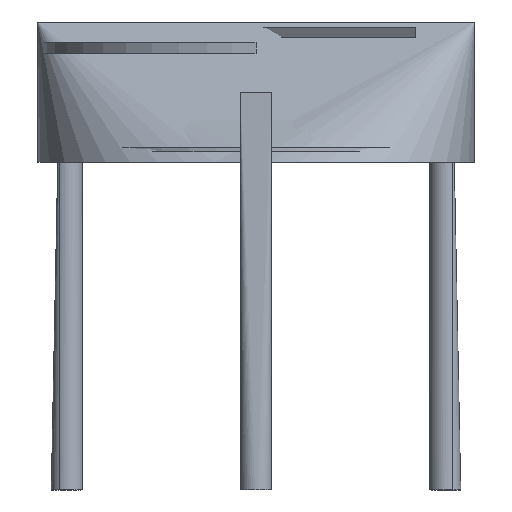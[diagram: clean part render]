
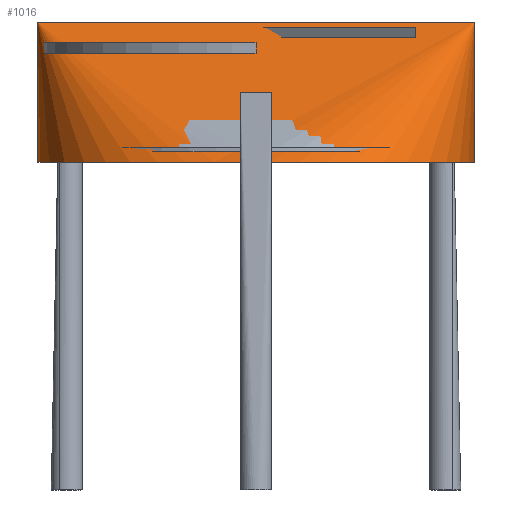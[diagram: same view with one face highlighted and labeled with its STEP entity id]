
A CAD part, front view. The second image highlights one B-rep face of the part: STEP entity #1016.
In plain terms, the highlighted free-form (B-spline) face has degree [2, 1] with [5, 2] control points.
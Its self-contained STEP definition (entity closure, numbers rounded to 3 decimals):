
#35=(
BOUNDED_CURVE()
B_SPLINE_CURVE(1,(#4257,#4258),.UNSPECIFIED.,.F.,.F.)
B_SPLINE_CURVE_WITH_KNOTS((2,2),(0.,135.),.UNSPECIFIED.)
CURVE()
GEOMETRIC_REPRESENTATION_ITEM()
RATIONAL_B_SPLINE_CURVE((1.,1.))
REPRESENTATION_ITEM('')
);
#46=(
BOUNDED_CURVE()
B_SPLINE_CURVE(1,(#4300,#4301),.UNSPECIFIED.,.F.,.F.)
B_SPLINE_CURVE_WITH_KNOTS((2,2),(0.,135.),.UNSPECIFIED.)
CURVE()
GEOMETRIC_REPRESENTATION_ITEM()
RATIONAL_B_SPLINE_CURVE((1.,1.))
REPRESENTATION_ITEM('')
);
#47=(
BOUNDED_CURVE()
B_SPLINE_CURVE(2,(#4302,#4303,#4304,#4305,#4306),.UNSPECIFIED.,.F.,.F.)
B_SPLINE_CURVE_WITH_KNOTS((3,2,3),(659.734,989.602,1319.469),
 .UNSPECIFIED.)
CURVE()
GEOMETRIC_REPRESENTATION_ITEM()
RATIONAL_B_SPLINE_CURVE((1.,0.707,1.,0.707,1.))
REPRESENTATION_ITEM('')
);
#48=(
BOUNDED_CURVE()
B_SPLINE_CURVE(2,(#4307,#4308,#4309,#4310,#4311),.UNSPECIFIED.,.F.,.F.)
B_SPLINE_CURVE_WITH_KNOTS((3,2,3),(659.734,989.602,1319.469),
 .UNSPECIFIED.)
CURVE()
GEOMETRIC_REPRESENTATION_ITEM()
RATIONAL_B_SPLINE_CURVE((1.,0.707,1.,0.707,1.))
REPRESENTATION_ITEM('')
);
#107=(
BOUNDED_SURFACE()
B_SPLINE_SURFACE(2,1,((#4196,#4197),(#4198,#4199),(#4200,#4201),(#4202,
#4203),(#4204,#4205)),.UNSPECIFIED.,.F.,.F.,.F.)
B_SPLINE_SURFACE_WITH_KNOTS((3,2,3),(2,2),(659.734,989.602,
1319.469),(0.,135.),.UNSPECIFIED.)
GEOMETRIC_REPRESENTATION_ITEM()
RATIONAL_B_SPLINE_SURFACE(((1.,1.),(0.707,0.707),
(1.,1.),(0.707,0.707),(1.,1.)))
REPRESENTATION_ITEM('')
SURFACE()
);
#1016=ADVANCED_FACE('',(#1099),#107,.T.);
#1099=FACE_OUTER_BOUND('',#1191,.T.);
#1191=EDGE_LOOP('',(#1449,#1450,#1451,#1452));
#1449=ORIENTED_EDGE('',*,*,#1765,.T.);
#1450=ORIENTED_EDGE('',*,*,#1753,.T.);
#1451=ORIENTED_EDGE('',*,*,#1766,.F.);
#1452=ORIENTED_EDGE('',*,*,#1764,.F.);
#1753=EDGE_CURVE('',#2227,#2228,#35,.T.);
#1764=EDGE_CURVE('',#2235,#2236,#46,.T.);
#1765=EDGE_CURVE('',#2235,#2227,#47,.T.);
#1766=EDGE_CURVE('',#2236,#2228,#48,.T.);
#2227=VERTEX_POINT('',#4236);
#2228=VERTEX_POINT('',#4237);
#2235=VERTEX_POINT('',#4244);
#2236=VERTEX_POINT('',#4245);
#4196=CARTESIAN_POINT('',(-210.,0.,313.754));
#4197=CARTESIAN_POINT('',(-210.,0.,448.754));
#4198=CARTESIAN_POINT('',(-210.,-210.,313.754));
#4199=CARTESIAN_POINT('',(-210.,-210.,448.754));
#4200=CARTESIAN_POINT('',(0.,-210.,313.754));
#4201=CARTESIAN_POINT('',(0.,-210.,448.754));
#4202=CARTESIAN_POINT('',(210.,-210.,313.754));
#4203=CARTESIAN_POINT('',(210.,-210.,448.754));
#4204=CARTESIAN_POINT('',(210.,0.,313.754));
#4205=CARTESIAN_POINT('',(210.,0.,448.754));
#4236=CARTESIAN_POINT('',(210.,0.,313.754));
#4237=CARTESIAN_POINT('',(210.,0.,448.754));
#4244=CARTESIAN_POINT('',(-210.,0.,313.754));
#4245=CARTESIAN_POINT('',(-210.,0.,448.754));
#4257=CARTESIAN_POINT('',(210.,0.,313.754));
#4258=CARTESIAN_POINT('',(210.,0.,448.754));
#4300=CARTESIAN_POINT('',(-210.,0.,313.754));
#4301=CARTESIAN_POINT('',(-210.,0.,448.754));
#4302=CARTESIAN_POINT('',(-210.,0.,313.754));
#4303=CARTESIAN_POINT('',(-210.,-210.,313.754));
#4304=CARTESIAN_POINT('',(0.,-210.,313.754));
#4305=CARTESIAN_POINT('',(210.,-210.,313.754));
#4306=CARTESIAN_POINT('',(210.,0.,313.754));
#4307=CARTESIAN_POINT('',(-210.,0.,448.754));
#4308=CARTESIAN_POINT('',(-210.,-210.,448.754));
#4309=CARTESIAN_POINT('',(0.,-210.,448.754));
#4310=CARTESIAN_POINT('',(210.,-210.,448.754));
#4311=CARTESIAN_POINT('',(210.,0.,448.754));
